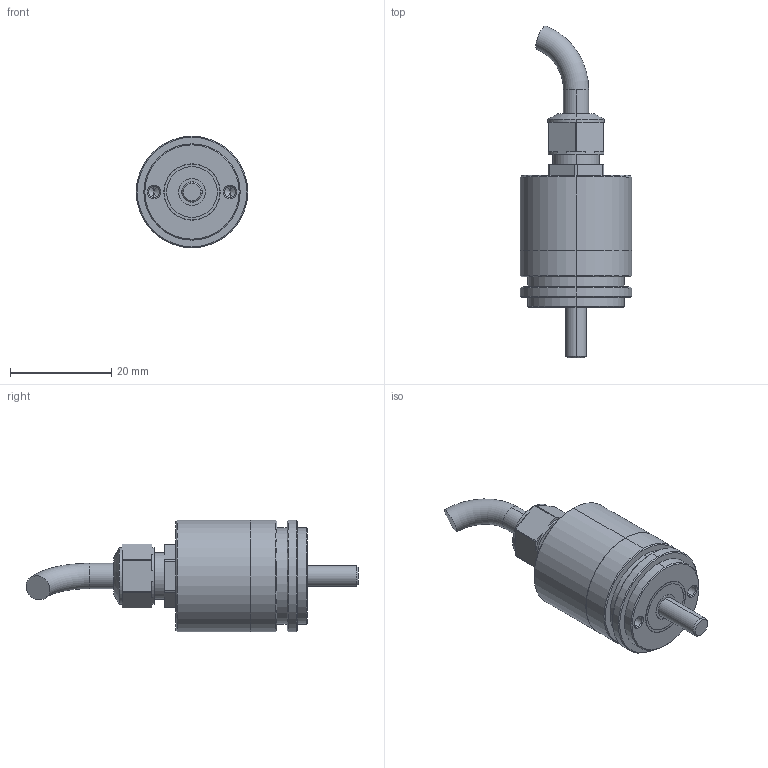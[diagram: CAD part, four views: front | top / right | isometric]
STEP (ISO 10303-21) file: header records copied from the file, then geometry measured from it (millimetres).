
FILE_DESCRIPTION (( 'STEP AP203' ), '1' );
FILE_NAME ('re22ip53axial-3d.step', '2006-09-05T12:58:19', ( 'RLS' ), ( '' ), 'SwSTEP 1.0', 'SolidWorks 1999313', '' );
FILE_SCHEMA (( 'CONFIG_CONTROL_DESIGN' ));
Length unit declared in the file: metre
Products named in the file (1): 1
Bounding box: 22 x 65.5 x 22 mm (x, y, z)
Volume: 11071.8 mm3; surface area: 3647.7 mm2
Topology: 1 solids, 1 shells, 131 faces, 307 edges, 191 vertices
Faces by surface type: cylinder 55, plane 53, cone 22, torus 1
Entity records: 3771 total; most frequent: DIRECTION 707, CARTESIAN_POINT 625, ORIENTED_EDGE 604, EDGE_CURVE 302, AXIS2_PLACEMENT_3D 273, VERTEX_POINT 191, LINE 161, VECTOR 161
